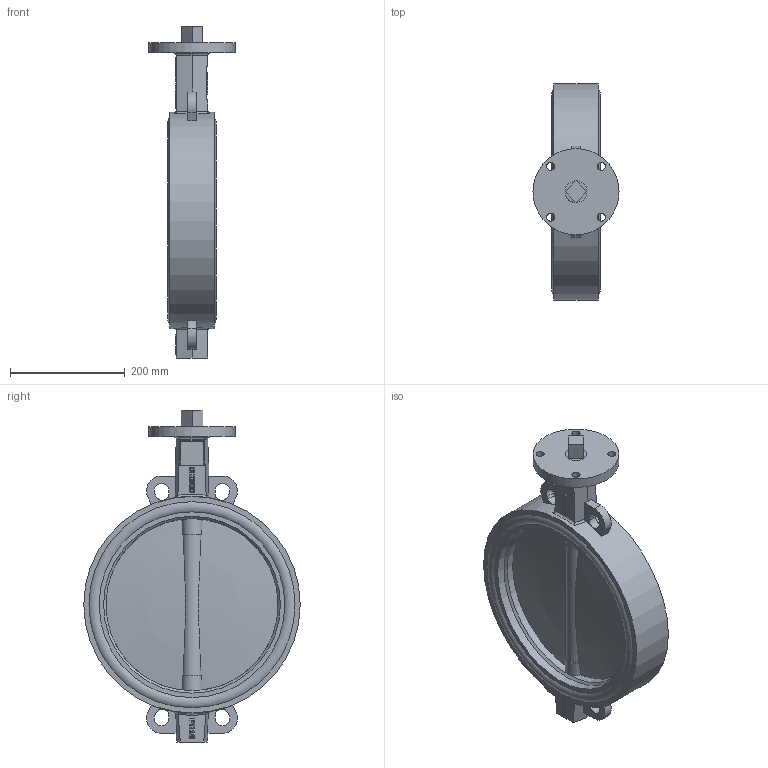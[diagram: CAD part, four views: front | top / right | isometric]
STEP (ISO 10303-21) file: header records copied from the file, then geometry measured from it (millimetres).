
FILE_DESCRIPTION(('STEP AP242'), '1');
FILE_NAME('Ïîâîðîòíûé çàòâîð ïîä ýëåêòðîïðèâîä', '', ('UNSPECIFIED'), ('UNSPECIFIED'), 'C3D Converter', 'C3D Toolkit', '');
FILE_SCHEMA(('AP242_MANAGED_MODEL_BASED_3D_ENGINEERING_MIM_LF { 1 0 10303 442 1 1 4 }'));
Length unit declared in the file: millimetre
Products named in the file (6): П
Assembly tree (6 placements, depth 2):
  (unnamed)
    (unnamed)
    П  x2
    (unnamed)
    (unnamed)
    (unnamed)
Bounding box: 150 x 377 x 578 mm (x, y, z)
Volume: 5455727.8 mm3; surface area: 879060.1 mm2
Topology: 6 solids, 6 shells, 445 faces, 1194 edges, 786 vertices
Faces by surface type: plane 193, extrusion 173, cylinder 57, bspline 8, torus 6, cone 4, sphere 4
Full cylindrical faces by diameter (mm): 11.421 x1, 14 x4, 27 x6, 37.05 x4, 38.184 x5, 150 x1, 300 x1, 307.8 x2, 323.4 x2, 341.1 x4, 358.8 x4, 377 x1
Entity records: 19298 total; most frequent: CARTESIAN_POINT 6582, ORIENTED_EDGE 2288, DIRECTION 1568, EDGE_CURVE 1144, VERTEX_POINT 781, VECTOR 748, LINE 575, B_SPLINE_CURVE_WITH_KNOTS 572
